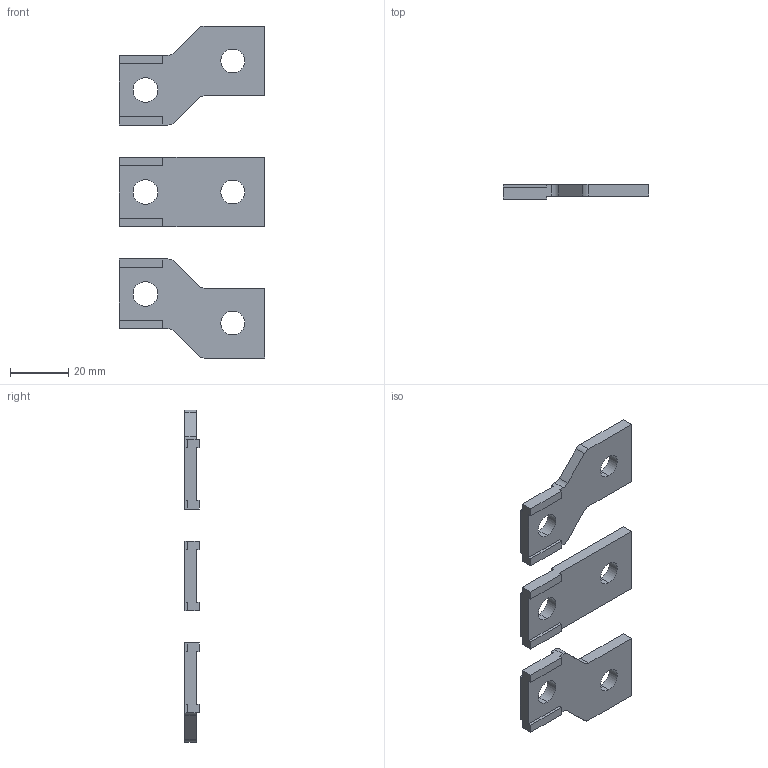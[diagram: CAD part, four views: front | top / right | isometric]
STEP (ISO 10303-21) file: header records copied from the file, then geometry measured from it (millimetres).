
FILE_DESCRIPTION (( 'STEP AP203' ), '1' );
FILE_NAME ('BE ACW250.STEP', '2021-11-10T12:33:29', ( '' ), ( '' ), 'SwSTEP 2.0', 'SolidWorks 2018', '' );
FILE_SCHEMA (( 'CONFIG_CONTROL_DESIGN' ));
Length unit declared in the file: millimetre
Products named in the file (1): BE ACW250
Bounding box: 50 x 5 x 114 mm (x, y, z)
Volume: 13085.3 mm3; surface area: 9226.4 mm2
Topology: 3 solids, 3 shells, 82 faces, 228 edges, 152 vertices
Faces by surface type: plane 62, cylinder 20
Entity records: 2709 total; most frequent: CARTESIAN_POINT 463, ORIENTED_EDGE 456, DIRECTION 434, EDGE_CURVE 228, LINE 188, VECTOR 188, VERTEX_POINT 152, AXIS2_PLACEMENT_3D 123
